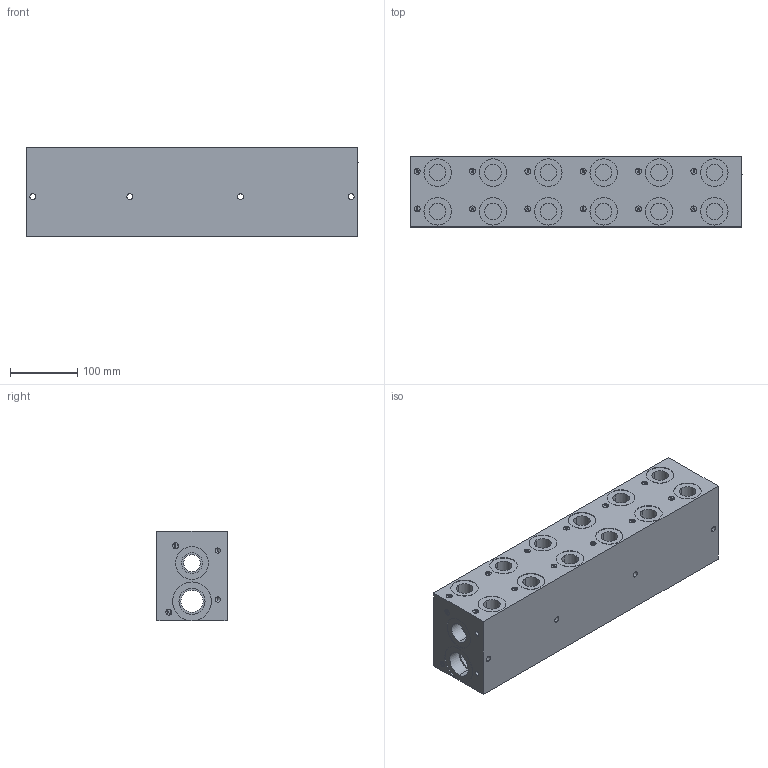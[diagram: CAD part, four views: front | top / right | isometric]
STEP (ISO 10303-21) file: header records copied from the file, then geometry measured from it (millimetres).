
FILE_DESCRIPTION (( 'STEP AP203' ), '1' );
FILE_NAME ('BM-AHP05S3-06-1_Z.STEP', '2015-01-06T16:00:57', ( '' ), ( '' ), 'SwSTEP 2.0', 'SolidWorks 2014', '' );
FILE_SCHEMA (( 'CONFIG_CONTROL_DESIGN' ));
Length unit declared in the file: inch
Products named in the file (1): BM-AHP05S3-06-1_Z
Bounding box: 495.3 x 104.65 x 133.35 mm (x, y, z)
Volume: 6034822.1 mm3; surface area: 399684.7 mm2
Topology: 1 solids, 1 shells, 763 faces, 1831 edges, 1134 vertices
Faces by surface type: plane 318, cylinder 267, cone 104, bspline 74
Entity records: 25654 total; most frequent: CARTESIAN_POINT 8355, DIRECTION 3493, ORIENTED_EDGE 3454, EDGE_CURVE 1727, AXIS2_PLACEMENT_3D 1224, VERTEX_POINT 1134, VECTOR 1045, LINE 1045
